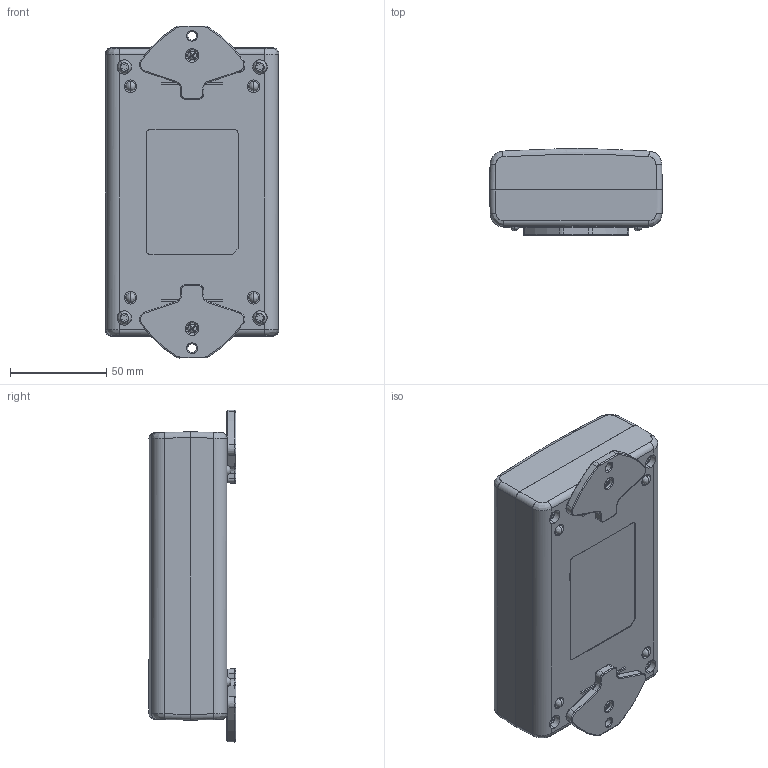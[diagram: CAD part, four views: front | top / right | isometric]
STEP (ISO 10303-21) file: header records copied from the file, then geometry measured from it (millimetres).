
FILE_DESCRIPTION (( 'STEP AP203' ), '1' );
FILE_NAME ('3D_TBB3.STEP', '2022-07-14T09:41:38', ( '' ), ( '' ), 'SwSTEP 2.0', 'SolidWorks 2015', '' );
FILE_SCHEMA (( 'CONFIG_CONTROL_DESIGN' ));
Length unit declared in the file: millimetre
Products named in the file (1): 3D_TBB3
Bounding box: 90.1 x 45.6 x 172.66 mm (x, y, z)
Volume: 537736.7 mm3; surface area: 78739.8 mm2
Topology: 11 solids, 11 shells, 548 faces, 1441 edges, 916 vertices
Faces by surface type: plane 199, cylinder 175, bspline 122, cone 32, torus 16, sphere 4
Entity records: 20905 total; most frequent: CARTESIAN_POINT 8513, ORIENTED_EDGE 2850, DIRECTION 2273, EDGE_CURVE 1425, VERTEX_POINT 916, AXIS2_PLACEMENT_3D 864, EDGE_LOOP 573, FACE_OUTER_BOUND 548
